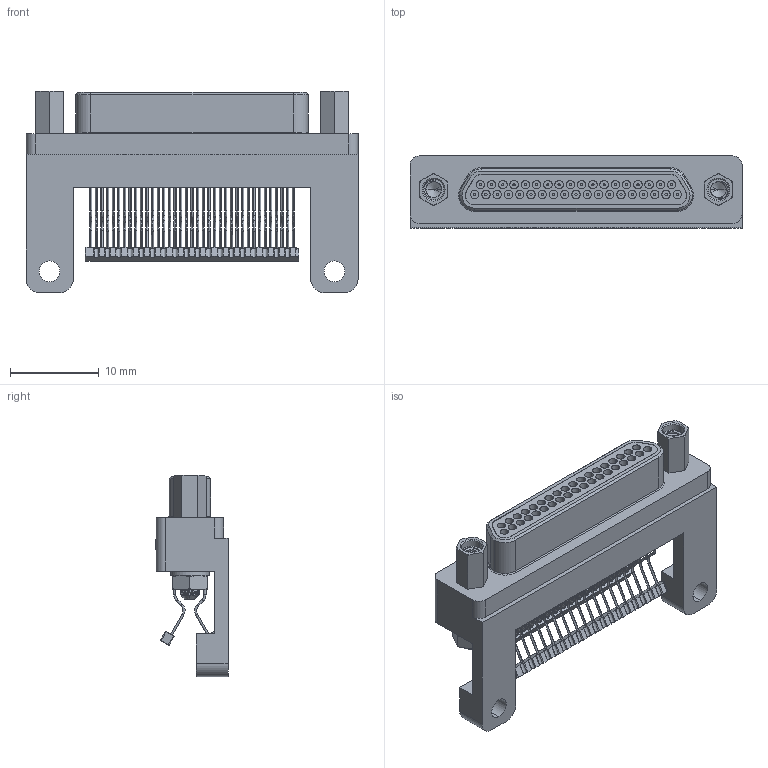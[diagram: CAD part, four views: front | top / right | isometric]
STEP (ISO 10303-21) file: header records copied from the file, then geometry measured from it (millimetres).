
FILE_DESCRIPTION (( 'STEP AP214' ), '1' );
FILE_NAME ('A98801-037 REV B.STEP', '2021-02-04T23:04:29', ( '' ), ( '' ), 'SwSTEP 2.0', 'SolidWorks 2019', '' );
FILE_SCHEMA (( 'AUTOMOTIVE_DESIGN' ));
Length unit declared in the file: inch
Products named in the file (1): A98801-037 REV B
Bounding box: 37.47 x 8.14 x 22.72 mm (x, y, z)
Volume: 2561.5 mm3; surface area: 4325.4 mm2
Topology: 1 solids, 1 shells, 1491 faces, 3565 edges, 2205 vertices
Faces by surface type: cylinder 765, plane 361, torus 153, cone 138, bspline 74
Entity records: 74152 total; most frequent: CARTESIAN_POINT 19939, DIRECTION 7565, ORIENTED_EDGE 7110, EDGE_CURVE 3555, AXIS2_PLACEMENT_3D 3018, VERTEX_POINT 2205, EDGE_LOOP 1712, CIRCLE 1600
